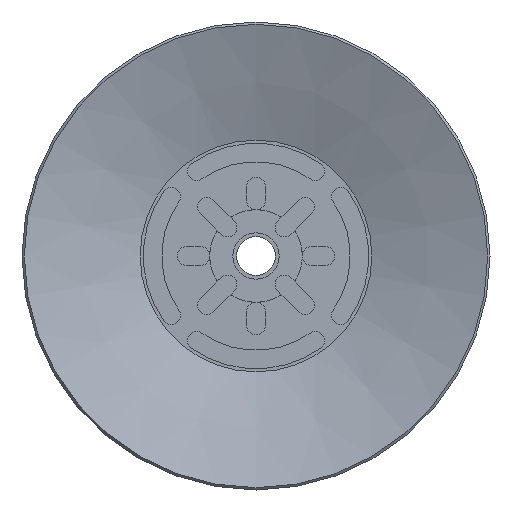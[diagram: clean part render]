
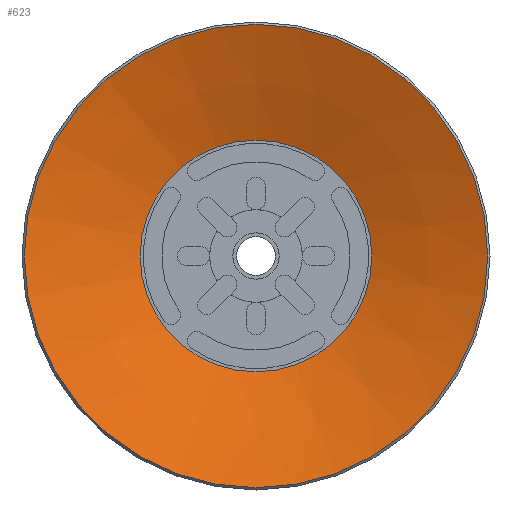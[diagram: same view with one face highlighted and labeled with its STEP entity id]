
A CAD part, front view. The second image highlights one B-rep face of the part: STEP entity #623.
In plain terms, the highlighted conical face has half-angle 70.201 degrees and reference radius 7.5 mm.
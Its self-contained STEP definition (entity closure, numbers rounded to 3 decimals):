
#623=ADVANCED_FACE('',(#1056,#1057),#1058,.F.);
#1056=FACE_BOUND('',#1564,.T.);
#1057=FACE_OUTER_BOUND('',#1565,.T.);
#1058=CONICAL_SURFACE('',#1566,7.5,1.225);
#1564=EDGE_LOOP('',(#3166));
#1565=EDGE_LOOP('',(#3167));
#1566=AXIS2_PLACEMENT_3D('',#3168,#3169,#3170);
#3166=ORIENTED_EDGE('',*,*,#3740,.F.);
#3167=ORIENTED_EDGE('',*,*,#3802,.T.);
#3168=CARTESIAN_POINT('',(0.0,0.0,2.7));
#3169=DIRECTION('',(0.0,0.,-1.0));
#3170=DIRECTION('',(0.0,1.0,0.));
#3740=EDGE_CURVE('',#4393,#4393,#4394,.T.);
#3802=EDGE_CURVE('',#4499,#4499,#4500,.T.);
#4393=VERTEX_POINT('',#5616);
#4394=CIRCLE('',#5617,7.5);
#4499=VERTEX_POINT('',#5760);
#4500=CIRCLE('',#5761,15.0);
#5616=CARTESIAN_POINT('',(0.0,7.5,2.7));
#5617=AXIS2_PLACEMENT_3D('',#6758,#6759,#6760);
#5760=CARTESIAN_POINT('',(0.0,15.0,0.));
#5761=AXIS2_PLACEMENT_3D('',#6868,#6869,#6870);
#6758=CARTESIAN_POINT('',(0.0,0.0,2.7));
#6759=DIRECTION('',(0.0,0.,-1.0));
#6760=DIRECTION('',(0.0,1.0,0.));
#6868=CARTESIAN_POINT('',(0.0,0.0,0.0));
#6869=DIRECTION('',(0.0,0.,-1.0));
#6870=DIRECTION('',(0.0,1.0,0.));
